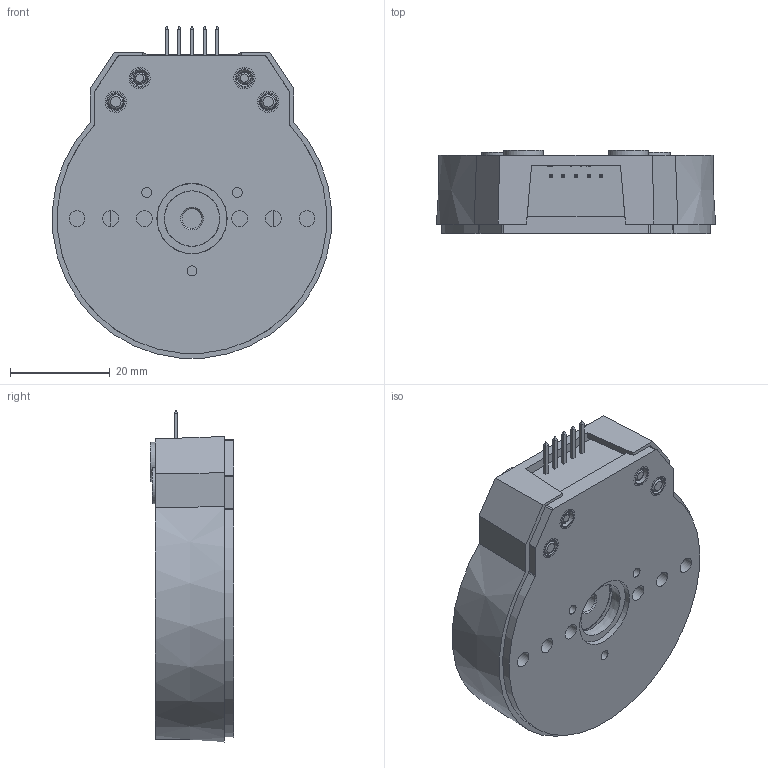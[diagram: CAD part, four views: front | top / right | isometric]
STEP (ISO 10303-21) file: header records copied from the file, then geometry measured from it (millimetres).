
FILE_DESCRIPTION(/* description */ ('STEP AP214'),/* implementation_level */ '2;1');
FILE_NAME(/* name */ 'C:\Users\raffaele\Downloads\Projects\E&D\ipt-to-step-conversion\E3.stp',/* time_stamp */ '2021-02-10T15:39:20+01:00',/* author */ (''),/* organization */ (''),/* preprocessor_version */ 'ST-DEVELOPER v18',/* originating_system */ 'Autodesk Inventor 2020',/* authorisation */ '');
FILE_SCHEMA (('AUTOMOTIVE_DESIGN { 1 0 10303 214 3 1 1 }'));
Length unit declared in the file: millimetre
Products named in the file (1): E3
Bounding box: 55.86 x 16.64 x 66.42 mm (x, y, z)
Volume: 21674.7 mm3; surface area: 26858.3 mm2
Topology: 17 solids, 17 shells, 1288 faces, 3534 edges, 2432 vertices
Faces by surface type: plane 646, cylinder 373, cone 213, bspline 40, torus 14, sphere 2
Full cylindrical faces by diameter (mm): 1.981 x3, 2.261 x4, 2.375 x1, 2.413 x2, 2.667 x42, 2.769 x4, 2.845 x46, 3.175 x8, 3.683 x4, 4.003 x1, 4.064 x4, 4.763 x8, 4.953 x2, 5.563 x2, 5.842 x2, 9.525 x2, 9.652 x2, 12.37 x1, 12.751 x1, 13.208 x1, 32.766 x2, 50.8 x1
Entity records: 47976 total; most frequent: CARTESIAN_POINT 12163, DIRECTION 7438, ORIENTED_EDGE 7068, EDGE_CURVE 3534, AXIS2_PLACEMENT_3D 2765, VERTEX_POINT 2432, LINE 1908, VECTOR 1908
